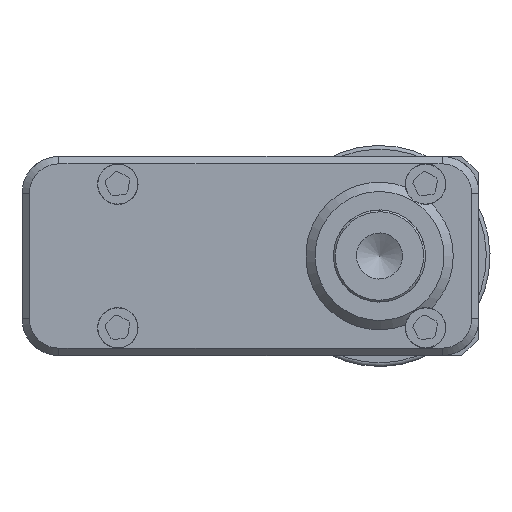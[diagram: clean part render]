
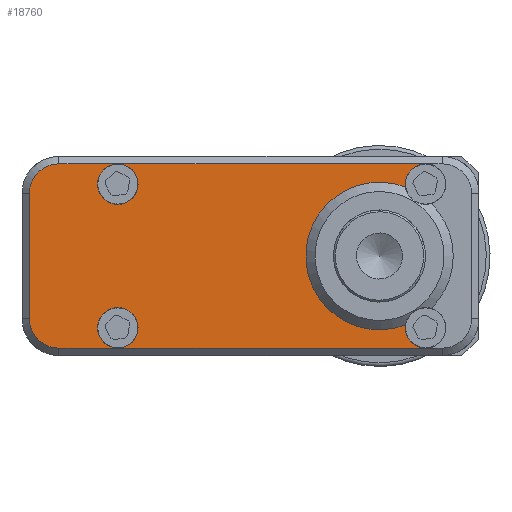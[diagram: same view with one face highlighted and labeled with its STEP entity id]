
A CAD part, front view. The second image highlights one B-rep face of the part: STEP entity #18760.
In plain terms, the highlighted planar face has unit normal (0, -1, 0).
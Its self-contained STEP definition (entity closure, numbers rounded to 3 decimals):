
#1726 = EDGE_CURVE ( 'NONE', #8085, #12486, #33672, .T. ) ;
#1864 = DIRECTION ( 'NONE',  ( 0., 0., 1. ) ) ;
#2047 = CARTESIAN_POINT ( 'NONE',  ( -12., -6.1, 3.4 ) ) ;
#3031 = VECTOR ( 'NONE', #9370, 1000. ) ;
#3041 = EDGE_CURVE ( 'NONE', #32087, #32087, #22934, .T. ) ;
#3289 = CARTESIAN_POINT ( 'NONE',  ( -12., -6.1, -3.4 ) ) ;
#4070 = VECTOR ( 'NONE', #15054, 1000. ) ;
#4187 = ORIENTED_EDGE ( 'NONE', *, *, #42671, .T. ) ;
#4868 = VERTEX_POINT ( 'NONE', #2047 ) ;
#4962 = DIRECTION ( 'NONE',  ( 0., -1., 0. ) ) ;
#5206 = EDGE_CURVE ( 'NONE', #32087, #43252, #40756, .T. ) ;
#5354 = EDGE_CURVE ( 'NONE', #43252, #19062, #41775, .T. ) ;
#5554 = CARTESIAN_POINT ( 'NONE',  ( 9.5, -6.1, -5. ) ) ;
#5981 = DIRECTION ( 'NONE',  ( 0., 1., 0. ) ) ;
#6608 = AXIS2_PLACEMENT_3D ( 'NONE', #26128, #40022, #37115 ) ;
#7144 = ORIENTED_EDGE ( 'NONE', *, *, #5206, .T. ) ;
#8085 = VERTEX_POINT ( 'NONE', #3289 ) ;
#8580 = CARTESIAN_POINT ( 'NONE',  ( -7.2, -6.1, 3.9 ) ) ;
#9159 = CARTESIAN_POINT ( 'NONE',  ( -10.4, -6.1, 5. ) ) ;
#9362 = ORIENTED_EDGE ( 'NONE', *, *, #29349, .T. ) ;
#9370 = DIRECTION ( 'NONE',  ( -1., 0., 0. ) ) ;
#10793 = CARTESIAN_POINT ( 'NONE',  ( -10.4, -6.1, 3.4 ) ) ;
#11462 = EDGE_CURVE ( 'NONE', #12486, #32087, #19710, .T. ) ;
#12280 = CARTESIAN_POINT ( 'NONE',  ( -10.4, -6.1, -5. ) ) ;
#12486 = VERTEX_POINT ( 'NONE', #12280 ) ;
#12831 = CARTESIAN_POINT ( 'NONE',  ( -12., -6.1, -3.4 ) ) ;
#13413 = VERTEX_POINT ( 'NONE', #39022 ) ;
#14552 = AXIS2_PLACEMENT_3D ( 'NONE', #8580, #22524, #1864 ) ;
#14898 = DIRECTION ( 'NONE',  ( 0., 1., 0. ) ) ;
#15054 = DIRECTION ( 'NONE',  ( -1., 0., 0. ) ) ;
#16073 = DIRECTION ( 'NONE',  ( 0., 0., 1. ) ) ;
#17185 = EDGE_CURVE ( 'NONE', #41851, #4868, #21980, .T. ) ;
#17847 = CARTESIAN_POINT ( 'NONE',  ( -10.4, -6.1, -3.4 ) ) ;
#18020 = CARTESIAN_POINT ( 'NONE',  ( 10.4, -6.1, -5. ) ) ;
#18079 = CIRCLE ( 'NONE', #37411, 4. ) ;
#18214 = DIRECTION ( 'NONE',  ( 0., 0., 1. ) ) ;
#18760 = ADVANCED_FACE ( 'NONE', ( #34506 ), #41677, .T. ) ;
#19011 = CARTESIAN_POINT ( 'NONE',  ( -7.2, -6.1, -5. ) ) ;
#19062 = VERTEX_POINT ( 'NONE', #37624 ) ;
#19110 = ORIENTED_EDGE ( 'NONE', *, *, #19167, .T. ) ;
#19167 = EDGE_CURVE ( 'NONE', #13413, #41851, #26078, .T. ) ;
#19198 = AXIS2_PLACEMENT_3D ( 'NONE', #34293, #27347, #41038 ) ;
#19710 = LINE ( 'NONE', #18020, #37837 ) ;
#20634 = CARTESIAN_POINT ( 'NONE',  ( 7., -6.1, 0. ) ) ;
#20771 = ORIENTED_EDGE ( 'NONE', *, *, #11462, .T. ) ;
#21877 = CARTESIAN_POINT ( 'NONE',  ( 9.5, -6.1, -3.9 ) ) ;
#21936 = ORIENTED_EDGE ( 'NONE', *, *, #27647, .T. ) ;
#21980 = CIRCLE ( 'NONE', #31318, 1.6 ) ;
#22524 = DIRECTION ( 'NONE',  ( 0., 1., 0. ) ) ;
#22934 = CIRCLE ( 'NONE', #34402, 1.1 ) ;
#23209 = EDGE_LOOP ( 'NONE', ( #42388, #20771, #44228, #7144, #29158, #38979, #4187, #21936, #28156, #19110, #29174, #9362 ) ) ;
#25135 = EDGE_CURVE ( 'NONE', #40663, #19062, #18079, .T. ) ;
#26078 = LINE ( 'NONE', #39758, #4070 ) ;
#26128 = CARTESIAN_POINT ( 'NONE',  ( 9.5, -6.1, 3.9 ) ) ;
#26436 = LINE ( 'NONE', #40117, #3031 ) ;
#26538 = DIRECTION ( 'NONE',  ( 0., 0., -1. ) ) ;
#27209 = LINE ( 'NONE', #12831, #44346 ) ;
#27325 = DIRECTION ( 'NONE',  ( 0., -1., 0. ) ) ;
#27347 = DIRECTION ( 'NONE',  ( 0., -1., 0. ) ) ;
#27647 = EDGE_CURVE ( 'NONE', #39091, #13413, #26436, .T. ) ;
#28156 = ORIENTED_EDGE ( 'NONE', *, *, #39776, .T. ) ;
#29158 = ORIENTED_EDGE ( 'NONE', *, *, #5354, .T. ) ;
#29174 = ORIENTED_EDGE ( 'NONE', *, *, #17185, .T. ) ;
#29277 = DIRECTION ( 'NONE',  ( 0., 0., 1. ) ) ;
#29349 = EDGE_CURVE ( 'NONE', #4868, #8085, #27209, .T. ) ;
#30885 = CIRCLE ( 'NONE', #6608, 1.1 ) ;
#31318 = AXIS2_PLACEMENT_3D ( 'NONE', #10793, #4962, #18214 ) ;
#32087 = VERTEX_POINT ( 'NONE', #19011 ) ;
#32913 = CARTESIAN_POINT ( 'NONE',  ( 10.4, -6.1, -5. ) ) ;
#33201 = AXIS2_PLACEMENT_3D ( 'NONE', #21877, #14898, #29277 ) ;
#33672 = CIRCLE ( 'NONE', #40105, 1.6 ) ;
#34105 = DIRECTION ( 'NONE',  ( 0., 0., 1. ) ) ;
#34293 = CARTESIAN_POINT ( 'NONE',  ( 0., -6.1, 0. ) ) ;
#34402 = AXIS2_PLACEMENT_3D ( 'NONE', #43443, #5981, #16073 ) ;
#34506 = FACE_OUTER_BOUND ( 'NONE', #23209, .T. ) ;
#34530 = DIRECTION ( 'NONE',  ( 0., -1., 0. ) ) ;
#34568 = VECTOR ( 'NONE', #41414, 1000. ) ;
#37004 = CARTESIAN_POINT ( 'NONE',  ( 8.411, -6.1, 3.743 ) ) ;
#37115 = DIRECTION ( 'NONE',  ( 0., 0., 1. ) ) ;
#37411 = AXIS2_PLACEMENT_3D ( 'NONE', #20634, #34530, #34105 ) ;
#37624 = CARTESIAN_POINT ( 'NONE',  ( 8.411, -6.1, -3.743 ) ) ;
#37837 = VECTOR ( 'NONE', #41819, 1000. ) ;
#38899 = CIRCLE ( 'NONE', #14552, 1.1 ) ;
#38979 = ORIENTED_EDGE ( 'NONE', *, *, #25135, .F. ) ;
#39022 = CARTESIAN_POINT ( 'NONE',  ( -7.2, -6.1, 5. ) ) ;
#39091 = VERTEX_POINT ( 'NONE', #44214 ) ;
#39758 = CARTESIAN_POINT ( 'NONE',  ( -10.4, -6.1, 5. ) ) ;
#39776 = EDGE_CURVE ( 'NONE', #13413, #13413, #38899, .T. ) ;
#40022 = DIRECTION ( 'NONE',  ( 0., 1., 0. ) ) ;
#40105 = AXIS2_PLACEMENT_3D ( 'NONE', #17847, #27325, #41012 ) ;
#40117 = CARTESIAN_POINT ( 'NONE',  ( -10.4, -6.1, 5. ) ) ;
#40663 = VERTEX_POINT ( 'NONE', #37004 ) ;
#40756 = LINE ( 'NONE', #32913, #34568 ) ;
#41012 = DIRECTION ( 'NONE',  ( 0., 0., 1. ) ) ;
#41038 = DIRECTION ( 'NONE',  ( 0., 0., 1. ) ) ;
#41414 = DIRECTION ( 'NONE',  ( 1., 0., 0. ) ) ;
#41677 = PLANE ( 'NONE',  #19198 ) ;
#41775 = CIRCLE ( 'NONE', #33201, 1.1 ) ;
#41819 = DIRECTION ( 'NONE',  ( 1., 0., 0. ) ) ;
#41851 = VERTEX_POINT ( 'NONE', #9159 ) ;
#42388 = ORIENTED_EDGE ( 'NONE', *, *, #1726, .T. ) ;
#42671 = EDGE_CURVE ( 'NONE', #40663, #39091, #30885, .T. ) ;
#43252 = VERTEX_POINT ( 'NONE', #5554 ) ;
#43443 = CARTESIAN_POINT ( 'NONE',  ( -7.2, -6.1, -3.9 ) ) ;
#44214 = CARTESIAN_POINT ( 'NONE',  ( 9.5, -6.1, 5. ) ) ;
#44228 = ORIENTED_EDGE ( 'NONE', *, *, #3041, .T. ) ;
#44346 = VECTOR ( 'NONE', #26538, 1000. ) ;
